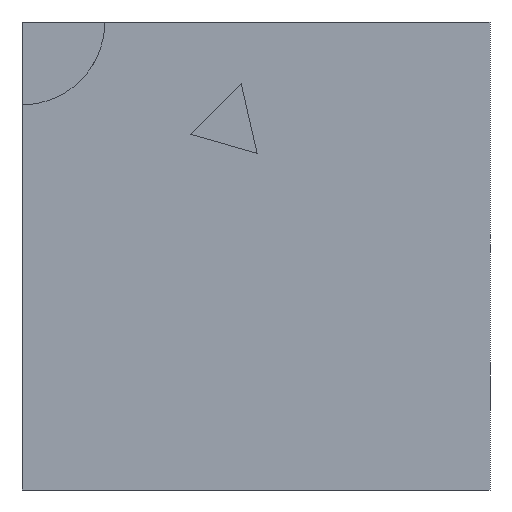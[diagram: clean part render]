
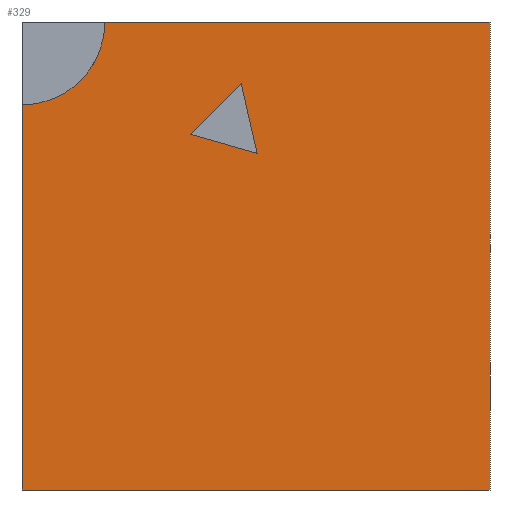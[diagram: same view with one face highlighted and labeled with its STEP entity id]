
A CAD part, front view. The second image highlights one B-rep face of the part: STEP entity #329.
In plain terms, the highlighted planar face has unit normal (0, -1, 0).
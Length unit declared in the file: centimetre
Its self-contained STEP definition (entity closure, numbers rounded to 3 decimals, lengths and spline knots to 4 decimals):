
#5 = VERTEX_POINT ( 'NONE', #1019 ) ;
#29 = LINE ( 'NONE', #810, #699 ) ;
#42 = AXIS2_PLACEMENT_3D ( 'NONE', #883, #1191, #926 ) ;
#60 = EDGE_CURVE ( 'NONE', #660, #1146, #162, .T. ) ;
#62 = VECTOR ( 'NONE', #286, 100. ) ;
#73 = CARTESIAN_POINT ( 'NONE',  ( 502.481, 0., 718.9315 ) ) ;
#162 = LINE ( 'NONE', #1024, #633 ) ;
#178 = EDGE_CURVE ( 'NONE', #576, #188, #268, .T. ) ;
#188 = VERTEX_POINT ( 'NONE', #1048 ) ;
#206 = DIRECTION ( 'NONE',  ( 0., 0., -1. ) ) ;
#268 = LINE ( 'NONE', #753, #1150 ) ;
#286 = DIRECTION ( 'NONE',  ( -0.222, 0., 0.975 ) ) ;
#318 = DIRECTION ( 'NONE',  ( 0., 0., -1. ) ) ;
#329 = ADVANCED_FACE ( 'NONE', ( #496, #794 ), #583, .F. ) ;
#370 = ORIENTED_EDGE ( 'NONE', *, *, #1275, .F. ) ;
#373 = LINE ( 'NONE', #73, #62 ) ;
#405 = ORIENTED_EDGE ( 'NONE', *, *, #634, .T. ) ;
#406 = CARTESIAN_POINT ( 'NONE',  ( 0., 0., 1000. ) ) ;
#410 = CARTESIAN_POINT ( 'NONE',  ( 359.1164, 0., 760.3547 ) ) ;
#415 = LINE ( 'NONE', #406, #1152 ) ;
#495 = CARTESIAN_POINT ( 'NONE',  ( 502.481, 0., 718.9315 ) ) ;
#496 = FACE_BOUND ( 'NONE', #1097, .T. ) ;
#516 = EDGE_CURVE ( 'NONE', #1077, #660, #373, .T. ) ;
#517 = DIRECTION ( 'NONE',  ( 0.961, 0., -0.278 ) ) ;
#523 = DIRECTION ( 'NONE',  ( 1., 0., 0. ) ) ;
#576 = VERTEX_POINT ( 'NONE', #579 ) ;
#579 = CARTESIAN_POINT ( 'NONE',  ( 0., 0., 0. ) ) ;
#583 = PLANE ( 'NONE',  #42 ) ;
#612 = CARTESIAN_POINT ( 'NONE',  ( 359.1164, 0., 760.3547 ) ) ;
#633 = VECTOR ( 'NONE', #1038, 100. ) ;
#634 = EDGE_CURVE ( 'NONE', #982, #576, #415, .T. ) ;
#646 = ORIENTED_EDGE ( 'NONE', *, *, #1148, .F. ) ;
#660 = VERTEX_POINT ( 'NONE', #697 ) ;
#662 = DIRECTION ( 'NONE',  ( 0., 0., -1. ) ) ;
#679 = AXIS2_PLACEMENT_3D ( 'NONE', #1054, #1155, #662 ) ;
#697 = CARTESIAN_POINT ( 'NONE',  ( 468.1765, 0., 869.4149 ) ) ;
#699 = VECTOR ( 'NONE', #318, 100. ) ;
#701 = ORIENTED_EDGE ( 'NONE', *, *, #855, .F. ) ;
#725 = LINE ( 'NONE', #612, #964 ) ;
#753 = CARTESIAN_POINT ( 'NONE',  ( 0., 0., 0. ) ) ;
#792 = ORIENTED_EDGE ( 'NONE', *, *, #60, .F. ) ;
#794 = FACE_OUTER_BOUND ( 'NONE', #863, .T. ) ;
#810 = CARTESIAN_POINT ( 'NONE',  ( 1000., 0., 1000. ) ) ;
#812 = VERTEX_POINT ( 'NONE', #1025 ) ;
#855 = EDGE_CURVE ( 'NONE', #982, #812, #1241, .T. ) ;
#863 = EDGE_LOOP ( 'NONE', ( #1195, #701, #405, #1099, #646 ) ) ;
#882 = CARTESIAN_POINT ( 'NONE',  ( 0., 0., 822.8426 ) ) ;
#883 = CARTESIAN_POINT ( 'NONE',  ( 0., 0., 1000. ) ) ;
#926 = DIRECTION ( 'NONE',  ( 0., 0., 1. ) ) ;
#964 = VECTOR ( 'NONE', #517, 100. ) ;
#976 = LINE ( 'NONE', #1070, #1035 ) ;
#980 = ORIENTED_EDGE ( 'NONE', *, *, #516, .F. ) ;
#982 = VERTEX_POINT ( 'NONE', #882 ) ;
#1019 = CARTESIAN_POINT ( 'NONE',  ( 1000., 0., 1000. ) ) ;
#1024 = CARTESIAN_POINT ( 'NONE',  ( 468.1765, 0., 869.4149 ) ) ;
#1025 = CARTESIAN_POINT ( 'NONE',  ( 177.1574, 0., 1000. ) ) ;
#1035 = VECTOR ( 'NONE', #523, 100. ) ;
#1038 = DIRECTION ( 'NONE',  ( -0.707, 0., -0.707 ) ) ;
#1048 = CARTESIAN_POINT ( 'NONE',  ( 1000., 0., 0. ) ) ;
#1054 = CARTESIAN_POINT ( 'NONE',  ( 0., 0., 1000. ) ) ;
#1070 = CARTESIAN_POINT ( 'NONE',  ( 0., 0., 1000. ) ) ;
#1077 = VERTEX_POINT ( 'NONE', #495 ) ;
#1097 = EDGE_LOOP ( 'NONE', ( #980, #370, #792 ) ) ;
#1099 = ORIENTED_EDGE ( 'NONE', *, *, #178, .T. ) ;
#1111 = EDGE_CURVE ( 'NONE', #812, #5, #976, .T. ) ;
#1146 = VERTEX_POINT ( 'NONE', #410 ) ;
#1148 = EDGE_CURVE ( 'NONE', #5, #188, #29, .T. ) ;
#1150 = VECTOR ( 'NONE', #1161, 100. ) ;
#1152 = VECTOR ( 'NONE', #206, 100. ) ;
#1155 = DIRECTION ( 'NONE',  ( 0., -1., 0. ) ) ;
#1161 = DIRECTION ( 'NONE',  ( 1., 0., 0. ) ) ;
#1191 = DIRECTION ( 'NONE',  ( 0., 1., 0. ) ) ;
#1195 = ORIENTED_EDGE ( 'NONE', *, *, #1111, .F. ) ;
#1241 = CIRCLE ( 'NONE', #679, 177.1574 ) ;
#1275 = EDGE_CURVE ( 'NONE', #1146, #1077, #725, .T. ) ;
